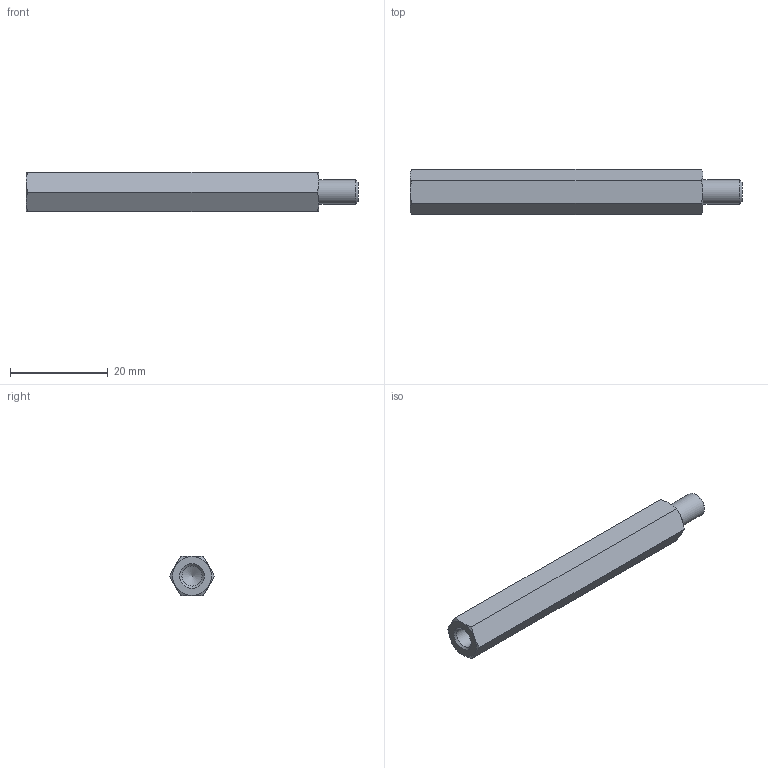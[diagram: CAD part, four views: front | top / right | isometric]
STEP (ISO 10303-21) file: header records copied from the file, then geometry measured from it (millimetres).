
FILE_DESCRIPTION( ( 'STEP AP203' ), '1' );
FILE_NAME( 'C:/Temp/Ganter_Step_05_03_2020/data/3_2/gn6220/gn6220_ni/Stainless Steel-Spacer GN 6220-NI-M5-60-B.stp', '2020-03-13T05:43:14', ( 'License CC BY-ND 4.0' ), ( 'CADENAS' ), ' ', 'PARTsolutions', ' ' );
FILE_SCHEMA( ( 'CONFIG_CONTROL_DESIGN' ) );
Length unit declared in the file: millimetre
Products named in the file (1): _Stainless Steel-Spacer GN 6220-NI-M5-60-B
Bounding box: 68 x 9.24 x 8 mm (x, y, z)
Volume: 3282.3 mm3; surface area: 2072.9 mm2
Topology: 1 solids, 1 shells, 26 faces, 55 edges, 32 vertices
Faces by surface type: cone 15, plane 9, cylinder 2
Full cylindrical faces by diameter (mm): 4.134 x1, 5 x1
Entity records: 746 total; most frequent: CARTESIAN_POINT 210, DIRECTION 96, ORIENTED_EDGE 96, EDGE_CURVE 48, AXIS2_PLACEMENT_3D 45, EDGE_LOOP 32, VERTEX_POINT 31, FACE_OUTER_BOUND 28
